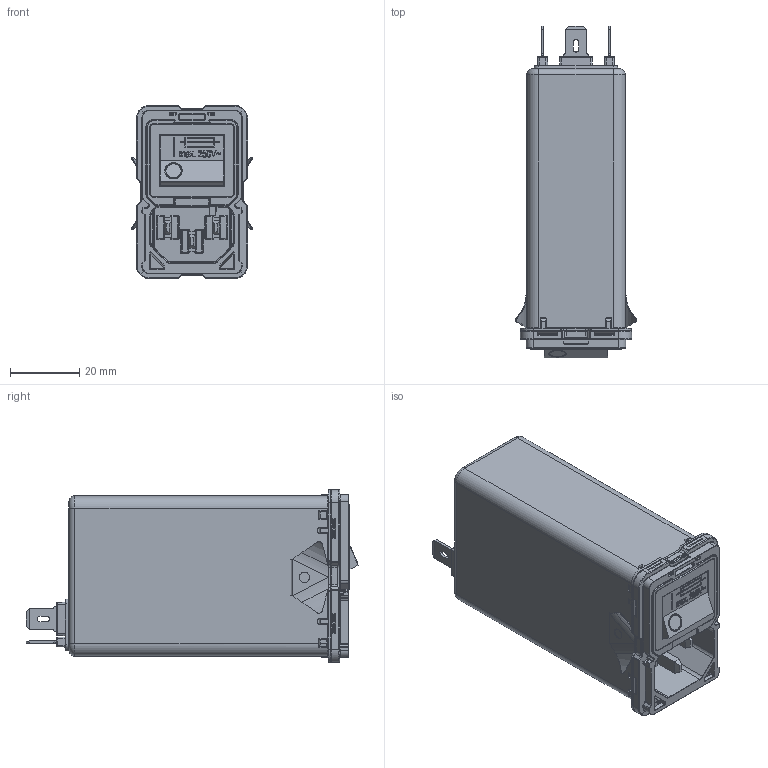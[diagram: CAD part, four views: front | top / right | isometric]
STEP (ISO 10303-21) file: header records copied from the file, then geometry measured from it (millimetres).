
FILE_DESCRIPTION((''),'2;1');
FILE_NAME('H:\02_Projects\A_Others\Z_Support\Luis\Cherry_STP\Step_Files\2 Stage\2_stage_faston_horizontal_snap.stp','2012-07-26T15:00:02',('Samuel.Meier'),(''),'Autodesk Inventor 2010','Autodesk Inventor 2010','');
FILE_SCHEMA(('AUTOMOTIVE_DESIGN { 1 2 10303 214 0 1 1 1 }'));
Length unit declared in the file: millimetre
Products named in the file (1): 2_stage_faston_horizontal_snap
Bounding box: 34.9 x 95.74 x 49.9 mm (x, y, z)
Surface area: 67407.3 mm2 (no closed solid volume)
Topology: 0 solids, 13 shells, 3237 faces, 8656 edges, 5342 vertices
Faces by surface type: plane 1286, cylinder 1231, bspline 488, torus 105, sphere 91, cone 36
Full cylindrical faces by diameter (mm): 0.8 x4, 1 x2, 1.1 x10, 1.2 x1, 2.7 x1, 3 x2, 3.3 x1, 3.6 x2, 4 x2, 6.5 x1, 7.2 x2, 8.2 x2
Entity records: 111139 total; most frequent: CARTESIAN_POINT 28405, ORIENTED_EDGE 17038, DIRECTION 16386, EDGE_CURVE 8519, AXIS2_PLACEMENT_3D 5737, VERTEX_POINT 5332, VECTOR 4912, LINE 4912
